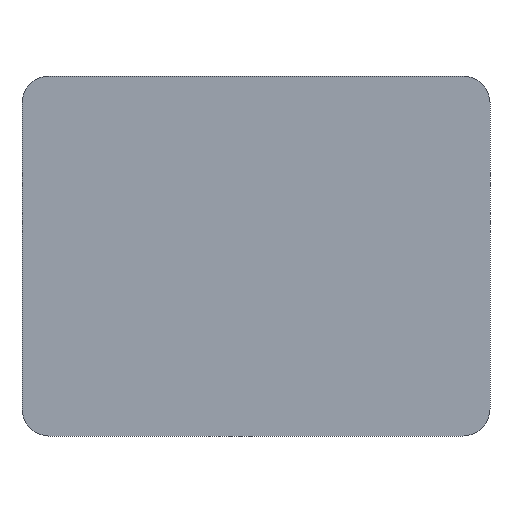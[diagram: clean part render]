
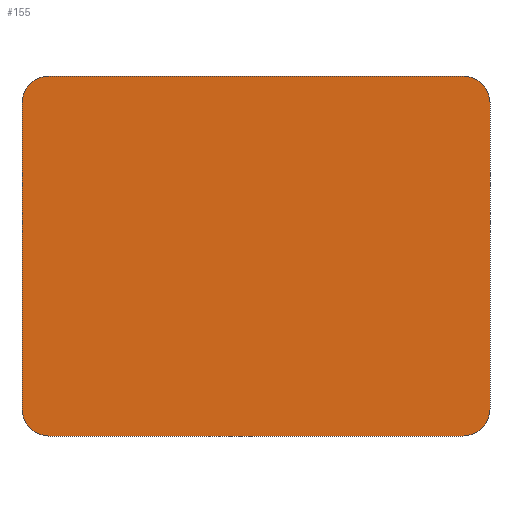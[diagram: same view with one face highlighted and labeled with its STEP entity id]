
A CAD part, front view. The second image highlights one B-rep face of the part: STEP entity #155.
In plain terms, the highlighted planar face has unit normal (0, -1, 0).
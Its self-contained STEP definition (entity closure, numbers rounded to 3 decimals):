
#39 = EDGE_CURVE('',#40,#42,#44,.T.);
#40 = VERTEX_POINT('',#41);
#41 = CARTESIAN_POINT('',(-52.,-6.,-34.));
#42 = VERTEX_POINT('',#43);
#43 = CARTESIAN_POINT('',(-52.,-6.,34.));
#44 = SURFACE_CURVE('',#45,(#49,#61),.PCURVE_S1.);
#45 = LINE('',#46,#47);
#46 = CARTESIAN_POINT('',(-52.,-6.,-40.));
#47 = VECTOR('',#48,1.);
#48 = DIRECTION('',(0.,0.,1.));
#49 = PCURVE('',#50,#55);
#50 = PLANE('',#51);
#51 = AXIS2_PLACEMENT_3D('',#52,#53,#54);
#52 = CARTESIAN_POINT('',(-52.,-6.,-40.));
#53 = DIRECTION('',(1.,0.,-0.));
#54 = DIRECTION('',(0.,0.,1.));
#55 = DEFINITIONAL_REPRESENTATION('',(#56),#60);
#56 = LINE('',#57,#58);
#57 = CARTESIAN_POINT('',(0.,0.));
#58 = VECTOR('',#59,1.);
#59 = DIRECTION('',(1.,0.));
#60 = ( GEOMETRIC_REPRESENTATION_CONTEXT(2) 
PARAMETRIC_REPRESENTATION_CONTEXT() REPRESENTATION_CONTEXT('2D SPACE',''
  ) );
#61 = PCURVE('',#62,#67);
#62 = PLANE('',#63);
#63 = AXIS2_PLACEMENT_3D('',#64,#65,#66);
#64 = CARTESIAN_POINT('',(-52.,-6.,-40.));
#65 = DIRECTION('',(-0.,1.,0.));
#66 = DIRECTION('',(0.,0.,1.));
#67 = DEFINITIONAL_REPRESENTATION('',(#68),#72);
#68 = LINE('',#69,#70);
#69 = CARTESIAN_POINT('',(0.,0.));
#70 = VECTOR('',#71,1.);
#71 = DIRECTION('',(1.,0.));
#72 = ( GEOMETRIC_REPRESENTATION_CONTEXT(2) 
PARAMETRIC_REPRESENTATION_CONTEXT() REPRESENTATION_CONTEXT('2D SPACE',''
  ) );
#90 = CYLINDRICAL_SURFACE('',#91,6.);
#91 = AXIS2_PLACEMENT_3D('',#92,#93,#94);
#92 = CARTESIAN_POINT('',(-46.,-6.,-34.));
#93 = DIRECTION('',(-0.,1.,0.));
#94 = DIRECTION('',(-1.,-0.,0.));
#144 = CYLINDRICAL_SURFACE('',#145,6.);
#145 = AXIS2_PLACEMENT_3D('',#146,#147,#148);
#146 = CARTESIAN_POINT('',(-46.,-6.,34.));
#147 = DIRECTION('',(-0.,1.,0.));
#148 = DIRECTION('',(-1.,-0.,0.));
#155 = ADVANCED_FACE('',(#156),#62,.F.);
#156 = FACE_BOUND('',#157,.F.);
#157 = EDGE_LOOP('',(#158,#188,#214,#215,#239,#267,#300,#328));
#158 = ORIENTED_EDGE('',*,*,#159,.F.);
#159 = EDGE_CURVE('',#160,#162,#164,.T.);
#160 = VERTEX_POINT('',#161);
#161 = CARTESIAN_POINT('',(-46.,-6.,-40.));
#162 = VERTEX_POINT('',#163);
#163 = CARTESIAN_POINT('',(46.,-6.,-40.));
#164 = SURFACE_CURVE('',#165,(#169,#176),.PCURVE_S1.);
#165 = LINE('',#166,#167);
#166 = CARTESIAN_POINT('',(-52.,-6.,-40.));
#167 = VECTOR('',#168,1.);
#168 = DIRECTION('',(1.,0.,-0.));
#169 = PCURVE('',#62,#170);
#170 = DEFINITIONAL_REPRESENTATION('',(#171),#175);
#171 = LINE('',#172,#173);
#172 = CARTESIAN_POINT('',(0.,0.));
#173 = VECTOR('',#174,1.);
#174 = DIRECTION('',(0.,1.));
#175 = ( GEOMETRIC_REPRESENTATION_CONTEXT(2) 
PARAMETRIC_REPRESENTATION_CONTEXT() REPRESENTATION_CONTEXT('2D SPACE',''
  ) );
#176 = PCURVE('',#177,#182);
#177 = PLANE('',#178);
#178 = AXIS2_PLACEMENT_3D('',#179,#180,#181);
#179 = CARTESIAN_POINT('',(-52.,-6.,-40.));
#180 = DIRECTION('',(0.,0.,1.));
#181 = DIRECTION('',(1.,0.,-0.));
#182 = DEFINITIONAL_REPRESENTATION('',(#183),#187);
#183 = LINE('',#184,#185);
#184 = CARTESIAN_POINT('',(0.,0.));
#185 = VECTOR('',#186,1.);
#186 = DIRECTION('',(1.,0.));
#187 = ( GEOMETRIC_REPRESENTATION_CONTEXT(2) 
PARAMETRIC_REPRESENTATION_CONTEXT() REPRESENTATION_CONTEXT('2D SPACE',''
  ) );
#188 = ORIENTED_EDGE('',*,*,#189,.F.);
#189 = EDGE_CURVE('',#40,#160,#190,.T.);
#190 = SURFACE_CURVE('',#191,(#196,#207),.PCURVE_S1.);
#191 = CIRCLE('',#192,6.);
#192 = AXIS2_PLACEMENT_3D('',#193,#194,#195);
#193 = CARTESIAN_POINT('',(-46.,-6.,-34.));
#194 = DIRECTION('',(0.,-1.,0.));
#195 = DIRECTION('',(0.,0.,1.));
#196 = PCURVE('',#62,#197);
#197 = DEFINITIONAL_REPRESENTATION('',(#198),#206);
#198 = ( BOUNDED_CURVE() B_SPLINE_CURVE(2,(#199,#200,#201,#202,#203,#204
,#205),.UNSPECIFIED.,.T.,.F.) B_SPLINE_CURVE_WITH_KNOTS((1,2,2,2,2,1),(
    -2.094,0.,2.094,4.189,6.283,
8.378),.UNSPECIFIED.) CURVE() GEOMETRIC_REPRESENTATION_ITEM() 
RATIONAL_B_SPLINE_CURVE((1.,0.5,1.,0.5,1.,0.5,1.)) REPRESENTATION_ITEM(
  '') );
#199 = CARTESIAN_POINT('',(12.,6.));
#200 = CARTESIAN_POINT('',(12.,-4.392));
#201 = CARTESIAN_POINT('',(3.,0.804));
#202 = CARTESIAN_POINT('',(-6.,6.));
#203 = CARTESIAN_POINT('',(3.,11.196));
#204 = CARTESIAN_POINT('',(12.,16.392));
#205 = CARTESIAN_POINT('',(12.,6.));
#206 = ( GEOMETRIC_REPRESENTATION_CONTEXT(2) 
PARAMETRIC_REPRESENTATION_CONTEXT() REPRESENTATION_CONTEXT('2D SPACE',''
  ) );
#207 = PCURVE('',#90,#208);
#208 = DEFINITIONAL_REPRESENTATION('',(#209),#213);
#209 = LINE('',#210,#211);
#210 = CARTESIAN_POINT('',(1.571,-0.));
#211 = VECTOR('',#212,1.);
#212 = DIRECTION('',(-1.,0.));
#213 = ( GEOMETRIC_REPRESENTATION_CONTEXT(2) 
PARAMETRIC_REPRESENTATION_CONTEXT() REPRESENTATION_CONTEXT('2D SPACE',''
  ) );
#214 = ORIENTED_EDGE('',*,*,#39,.T.);
#215 = ORIENTED_EDGE('',*,*,#216,.T.);
#216 = EDGE_CURVE('',#42,#217,#219,.T.);
#217 = VERTEX_POINT('',#218);
#218 = CARTESIAN_POINT('',(-46.,-6.,40.));
#219 = SURFACE_CURVE('',#220,(#225,#232),.PCURVE_S1.);
#220 = CIRCLE('',#221,6.);
#221 = AXIS2_PLACEMENT_3D('',#222,#223,#224);
#222 = CARTESIAN_POINT('',(-46.,-6.,34.));
#223 = DIRECTION('',(-0.,1.,0.));
#224 = DIRECTION('',(0.,0.,1.));
#225 = PCURVE('',#62,#226);
#226 = DEFINITIONAL_REPRESENTATION('',(#227),#231);
#227 = CIRCLE('',#228,6.);
#228 = AXIS2_PLACEMENT_2D('',#229,#230);
#229 = CARTESIAN_POINT('',(74.,6.));
#230 = DIRECTION('',(1.,0.));
#231 = ( GEOMETRIC_REPRESENTATION_CONTEXT(2) 
PARAMETRIC_REPRESENTATION_CONTEXT() REPRESENTATION_CONTEXT('2D SPACE',''
  ) );
#232 = PCURVE('',#144,#233);
#233 = DEFINITIONAL_REPRESENTATION('',(#234),#238);
#234 = LINE('',#235,#236);
#235 = CARTESIAN_POINT('',(-4.712,0.));
#236 = VECTOR('',#237,1.);
#237 = DIRECTION('',(1.,0.));
#238 = ( GEOMETRIC_REPRESENTATION_CONTEXT(2) 
PARAMETRIC_REPRESENTATION_CONTEXT() REPRESENTATION_CONTEXT('2D SPACE',''
  ) );
#239 = ORIENTED_EDGE('',*,*,#240,.T.);
#240 = EDGE_CURVE('',#217,#241,#243,.T.);
#241 = VERTEX_POINT('',#242);
#242 = CARTESIAN_POINT('',(46.,-6.,40.));
#243 = SURFACE_CURVE('',#244,(#248,#255),.PCURVE_S1.);
#244 = LINE('',#245,#246);
#245 = CARTESIAN_POINT('',(-52.,-6.,40.));
#246 = VECTOR('',#247,1.);
#247 = DIRECTION('',(1.,0.,-0.));
#248 = PCURVE('',#62,#249);
#249 = DEFINITIONAL_REPRESENTATION('',(#250),#254);
#250 = LINE('',#251,#252);
#251 = CARTESIAN_POINT('',(80.,0.));
#252 = VECTOR('',#253,1.);
#253 = DIRECTION('',(0.,1.));
#254 = ( GEOMETRIC_REPRESENTATION_CONTEXT(2) 
PARAMETRIC_REPRESENTATION_CONTEXT() REPRESENTATION_CONTEXT('2D SPACE',''
  ) );
#255 = PCURVE('',#256,#261);
#256 = PLANE('',#257);
#257 = AXIS2_PLACEMENT_3D('',#258,#259,#260);
#258 = CARTESIAN_POINT('',(-52.,-6.,40.));
#259 = DIRECTION('',(0.,0.,1.));
#260 = DIRECTION('',(1.,0.,-0.));
#261 = DEFINITIONAL_REPRESENTATION('',(#262),#266);
#262 = LINE('',#263,#264);
#263 = CARTESIAN_POINT('',(0.,0.));
#264 = VECTOR('',#265,1.);
#265 = DIRECTION('',(1.,0.));
#266 = ( GEOMETRIC_REPRESENTATION_CONTEXT(2) 
PARAMETRIC_REPRESENTATION_CONTEXT() REPRESENTATION_CONTEXT('2D SPACE',''
  ) );
#267 = ORIENTED_EDGE('',*,*,#268,.F.);
#268 = EDGE_CURVE('',#269,#241,#271,.T.);
#269 = VERTEX_POINT('',#270);
#270 = CARTESIAN_POINT('',(52.,-6.,34.));
#271 = SURFACE_CURVE('',#272,(#277,#288),.PCURVE_S1.);
#272 = CIRCLE('',#273,6.);
#273 = AXIS2_PLACEMENT_3D('',#274,#275,#276);
#274 = CARTESIAN_POINT('',(46.,-6.,34.));
#275 = DIRECTION('',(0.,-1.,0.));
#276 = DIRECTION('',(0.,0.,1.));
#277 = PCURVE('',#62,#278);
#278 = DEFINITIONAL_REPRESENTATION('',(#279),#287);
#279 = ( BOUNDED_CURVE() B_SPLINE_CURVE(2,(#280,#281,#282,#283,#284,#285
,#286),.UNSPECIFIED.,.T.,.F.) B_SPLINE_CURVE_WITH_KNOTS((1,2,2,2,2,1),(
    -2.094,0.,2.094,4.189,6.283,
8.378),.UNSPECIFIED.) CURVE() GEOMETRIC_REPRESENTATION_ITEM() 
RATIONAL_B_SPLINE_CURVE((1.,0.5,1.,0.5,1.,0.5,1.)) REPRESENTATION_ITEM(
  '') );
#280 = CARTESIAN_POINT('',(80.,98.));
#281 = CARTESIAN_POINT('',(80.,87.608));
#282 = CARTESIAN_POINT('',(71.,92.804));
#283 = CARTESIAN_POINT('',(62.,98.));
#284 = CARTESIAN_POINT('',(71.,103.196));
#285 = CARTESIAN_POINT('',(80.,108.392));
#286 = CARTESIAN_POINT('',(80.,98.));
#287 = ( GEOMETRIC_REPRESENTATION_CONTEXT(2) 
PARAMETRIC_REPRESENTATION_CONTEXT() REPRESENTATION_CONTEXT('2D SPACE',''
  ) );
#288 = PCURVE('',#289,#294);
#289 = CYLINDRICAL_SURFACE('',#290,6.);
#290 = AXIS2_PLACEMENT_3D('',#291,#292,#293);
#291 = CARTESIAN_POINT('',(46.,-6.,34.));
#292 = DIRECTION('',(-0.,1.,0.));
#293 = DIRECTION('',(1.,0.,-0.));
#294 = DEFINITIONAL_REPRESENTATION('',(#295),#299);
#295 = LINE('',#296,#297);
#296 = CARTESIAN_POINT('',(4.712,-0.));
#297 = VECTOR('',#298,1.);
#298 = DIRECTION('',(-1.,0.));
#299 = ( GEOMETRIC_REPRESENTATION_CONTEXT(2) 
PARAMETRIC_REPRESENTATION_CONTEXT() REPRESENTATION_CONTEXT('2D SPACE',''
  ) );
#300 = ORIENTED_EDGE('',*,*,#301,.F.);
#301 = EDGE_CURVE('',#302,#269,#304,.T.);
#302 = VERTEX_POINT('',#303);
#303 = CARTESIAN_POINT('',(52.,-6.,-34.));
#304 = SURFACE_CURVE('',#305,(#309,#316),.PCURVE_S1.);
#305 = LINE('',#306,#307);
#306 = CARTESIAN_POINT('',(52.,-6.,-40.));
#307 = VECTOR('',#308,1.);
#308 = DIRECTION('',(0.,0.,1.));
#309 = PCURVE('',#62,#310);
#310 = DEFINITIONAL_REPRESENTATION('',(#311),#315);
#311 = LINE('',#312,#313);
#312 = CARTESIAN_POINT('',(0.,104.));
#313 = VECTOR('',#314,1.);
#314 = DIRECTION('',(1.,0.));
#315 = ( GEOMETRIC_REPRESENTATION_CONTEXT(2) 
PARAMETRIC_REPRESENTATION_CONTEXT() REPRESENTATION_CONTEXT('2D SPACE',''
  ) );
#316 = PCURVE('',#317,#322);
#317 = PLANE('',#318);
#318 = AXIS2_PLACEMENT_3D('',#319,#320,#321);
#319 = CARTESIAN_POINT('',(52.,-6.,-40.));
#320 = DIRECTION('',(1.,0.,-0.));
#321 = DIRECTION('',(0.,0.,1.));
#322 = DEFINITIONAL_REPRESENTATION('',(#323),#327);
#323 = LINE('',#324,#325);
#324 = CARTESIAN_POINT('',(0.,0.));
#325 = VECTOR('',#326,1.);
#326 = DIRECTION('',(1.,0.));
#327 = ( GEOMETRIC_REPRESENTATION_CONTEXT(2) 
PARAMETRIC_REPRESENTATION_CONTEXT() REPRESENTATION_CONTEXT('2D SPACE',''
  ) );
#328 = ORIENTED_EDGE('',*,*,#329,.T.);
#329 = EDGE_CURVE('',#302,#162,#330,.T.);
#330 = SURFACE_CURVE('',#331,(#336,#343),.PCURVE_S1.);
#331 = CIRCLE('',#332,6.);
#332 = AXIS2_PLACEMENT_3D('',#333,#334,#335);
#333 = CARTESIAN_POINT('',(46.,-6.,-34.));
#334 = DIRECTION('',(-0.,1.,0.));
#335 = DIRECTION('',(0.,0.,1.));
#336 = PCURVE('',#62,#337);
#337 = DEFINITIONAL_REPRESENTATION('',(#338),#342);
#338 = CIRCLE('',#339,6.);
#339 = AXIS2_PLACEMENT_2D('',#340,#341);
#340 = CARTESIAN_POINT('',(6.,98.));
#341 = DIRECTION('',(1.,0.));
#342 = ( GEOMETRIC_REPRESENTATION_CONTEXT(2) 
PARAMETRIC_REPRESENTATION_CONTEXT() REPRESENTATION_CONTEXT('2D SPACE',''
  ) );
#343 = PCURVE('',#344,#349);
#344 = CYLINDRICAL_SURFACE('',#345,6.);
#345 = AXIS2_PLACEMENT_3D('',#346,#347,#348);
#346 = CARTESIAN_POINT('',(46.,-6.,-34.));
#347 = DIRECTION('',(-0.,1.,0.));
#348 = DIRECTION('',(1.,0.,-0.));
#349 = DEFINITIONAL_REPRESENTATION('',(#350),#354);
#350 = LINE('',#351,#352);
#351 = CARTESIAN_POINT('',(-1.571,0.));
#352 = VECTOR('',#353,1.);
#353 = DIRECTION('',(1.,0.));
#354 = ( GEOMETRIC_REPRESENTATION_CONTEXT(2) 
PARAMETRIC_REPRESENTATION_CONTEXT() REPRESENTATION_CONTEXT('2D SPACE',''
  ) );
